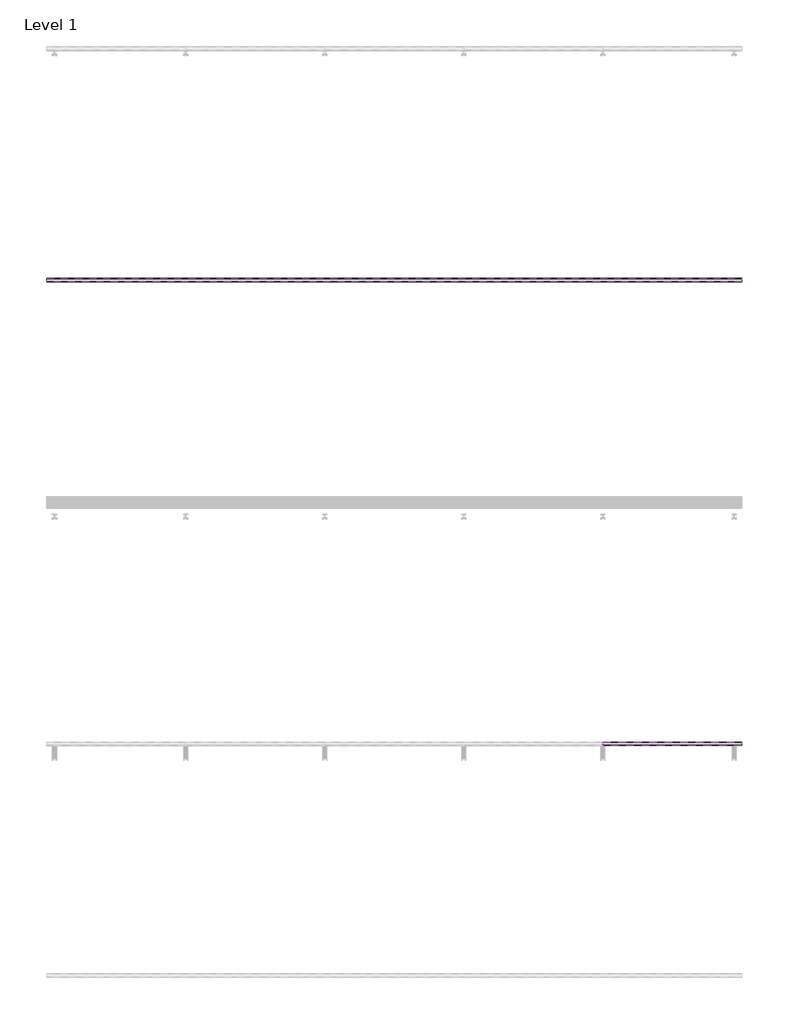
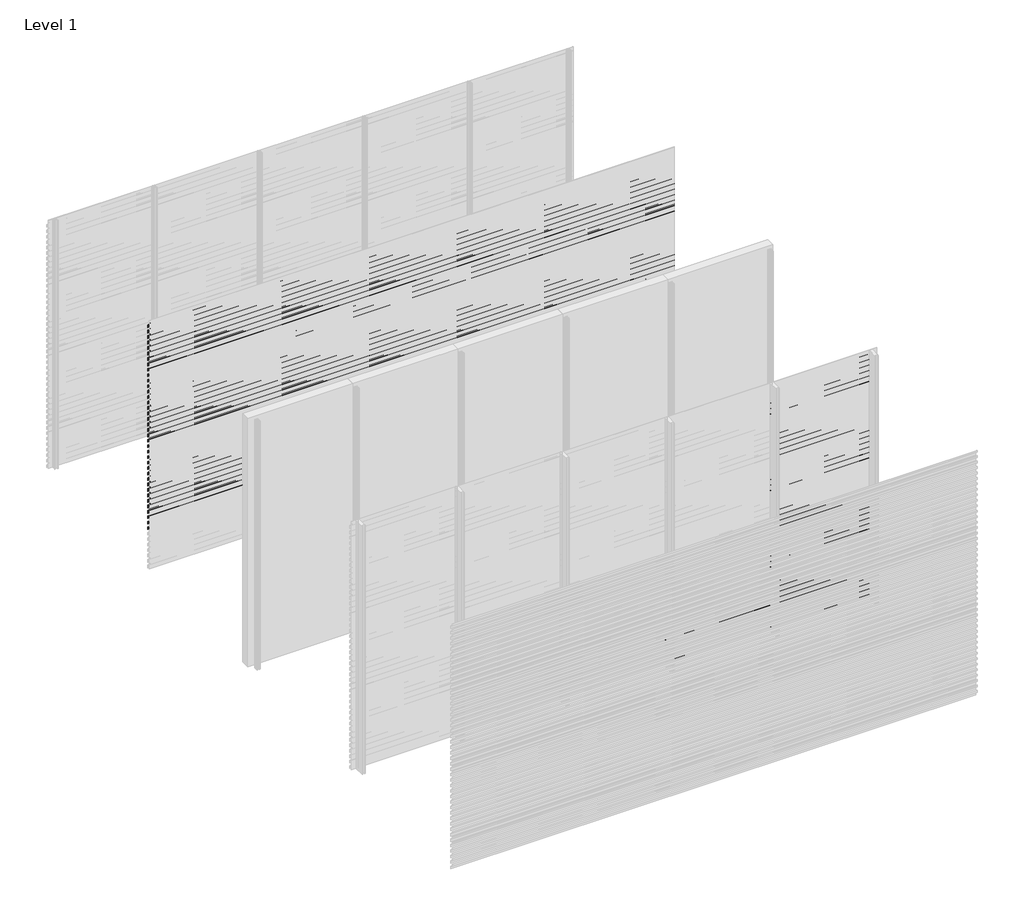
# One storey, part 9 of 33: 88 proxies.
"""IFC4 building model written with IfcOpenShell, lengths in millimetres."""

from ifc_helpers import new_model, si_unit, frame, origin, place, context, project, spatial, polyline, outline, extrude, element, save

model = new_model("IFC4")

# Units and contexts
model_context = context("Model", 3, world=origin())
ifc_project = project(units=[si_unit("LENGTHUNIT", "METRE", prefix="MILLI")], contexts=[model_context])

# Site, building, storey
site = spatial("IfcSite", under=ifc_project)
building = spatial("IfcBuilding", under=site)
storey = spatial("IfcBuildingStorey", under=building, Name="Level 1", Elevation=0.0)

# Proxies
placement = place(None, origin())
element("IfcBuildingElementProxy", 1, Name="Wall Sweeps", at=placement, inside=storey, context=model_context, shape_type="SweptSolid", body=[
    extrude(outline(polyline([(-43967.0, 2930.0), (-43967.0, 2897.0), (-43968.25, 2897.7216933), (-43968.25, 2929.2872415), (-43998.0, 2950.0588647), (-43998.0, 2970.0), (-43996.75, 2970.0), (-43996.75, 2950.7716232), (-43967.0, 2930.0)])), frame((0.0, 0.0, 0.0), z_axis=(1.0, 0.0, 0.0), x_axis=(0.0, 1.0, 0.0)), (0.0, 0.0, 1.0), 6000.0),
])
element("IfcBuildingElementProxy", 2, Name="Wall Sweeps", at=placement, inside=storey, context=model_context, shape_type="SweptSolid", body=[
    extrude(outline(polyline([(-43967.0, 2864.0), (-43967.0, 2831.0), (-43968.25, 2831.7216933), (-43968.25, 2863.2872415), (-43998.0, 2884.0588647), (-43998.0, 2904.0), (-43996.75, 2904.0), (-43996.75, 2884.7716232), (-43967.0, 2864.0)])), frame((0.0, 0.0, 0.0), z_axis=(1.0, 0.0, 0.0), x_axis=(0.0, 1.0, 0.0)), (0.0, 0.0, 1.0), 6000.0),
])
element("IfcBuildingElementProxy", 3, Name="Wall Sweeps", at=placement, inside=storey, context=model_context, shape_type="SweptSolid", body=[
    extrude(outline(polyline([(-43967.0, 2798.0), (-43967.0, 2765.0), (-43968.25, 2765.7216933), (-43968.25, 2797.2872415), (-43998.0, 2818.0588647), (-43998.0, 2838.0), (-43996.75, 2838.0), (-43996.75, 2818.7716232), (-43967.0, 2798.0)])), frame((0.0, 0.0, 0.0), z_axis=(1.0, 0.0, 0.0), x_axis=(0.0, 1.0, 0.0)), (0.0, 0.0, 1.0), 6000.0),
])
element("IfcBuildingElementProxy", 4, Name="Wall Sweeps", at=placement, inside=storey, context=model_context, shape_type="SweptSolid", body=[
    extrude(outline(polyline([(-43967.0, 2732.0), (-43967.0, 2699.0), (-43968.25, 2699.7216933), (-43968.25, 2731.2872415), (-43998.0, 2752.0588647), (-43998.0, 2772.0), (-43996.75, 2772.0), (-43996.75, 2752.7716232), (-43967.0, 2732.0)])), frame((0.0, 0.0, 0.0), z_axis=(1.0, 0.0, 0.0), x_axis=(0.0, 1.0, 0.0)), (0.0, 0.0, 1.0), 6000.0),
])
element("IfcBuildingElementProxy", 5, Name="Wall Sweeps", at=placement, inside=storey, context=model_context, shape_type="SweptSolid", body=[
    extrude(outline(polyline([(-43967.0, 2666.0), (-43967.0, 2633.0), (-43968.25, 2633.7216933), (-43968.25, 2665.2872415), (-43998.0, 2686.0588647), (-43998.0, 2706.0), (-43996.75, 2706.0), (-43996.75, 2686.7716232), (-43967.0, 2666.0)])), frame((0.0, 0.0, 0.0), z_axis=(1.0, 0.0, 0.0), x_axis=(0.0, 1.0, 0.0)), (0.0, 0.0, 1.0), 6000.0),
])
element("IfcBuildingElementProxy", 6, Name="Wall Sweeps", at=placement, inside=storey, context=model_context, shape_type="SweptSolid", body=[
    extrude(outline(polyline([(-43967.0, 2600.0), (-43967.0, 2567.0), (-43968.25, 2567.7216933), (-43968.25, 2599.2872415), (-43998.0, 2620.0588647), (-43998.0, 2640.0), (-43996.75, 2640.0), (-43996.75, 2620.7716232), (-43967.0, 2600.0)])), frame((0.0, 0.0, 0.0), z_axis=(1.0, 0.0, 0.0), x_axis=(0.0, 1.0, 0.0)), (0.0, 0.0, 1.0), 6000.0),
])
element("IfcBuildingElementProxy", 7, Name="Wall Sweeps", at=placement, inside=storey, context=model_context, shape_type="SweptSolid", body=[
    extrude(outline(polyline([(-43967.0, 2534.0), (-43967.0, 2501.0), (-43968.25, 2501.7216933), (-43968.25, 2533.2872415), (-43998.0, 2554.0588647), (-43998.0, 2574.0), (-43996.75, 2574.0), (-43996.75, 2554.7716232), (-43967.0, 2534.0)])), frame((0.0, 0.0, 0.0), z_axis=(1.0, 0.0, 0.0), x_axis=(0.0, 1.0, 0.0)), (0.0, 0.0, 1.0), 6000.0),
])
element("IfcBuildingElementProxy", 8, Name="Wall Sweeps", at=placement, inside=storey, context=model_context, shape_type="SweptSolid", body=[
    extrude(outline(polyline([(-43967.0, 2468.0), (-43967.0, 2435.0), (-43968.25, 2435.7216933), (-43968.25, 2467.2872415), (-43998.0, 2488.0588647), (-43998.0, 2508.0), (-43996.75, 2508.0), (-43996.75, 2488.7716232), (-43967.0, 2468.0)])), frame((0.0, 0.0, 0.0), z_axis=(1.0, 0.0, 0.0), x_axis=(0.0, 1.0, 0.0)), (0.0, 0.0, 1.0), 6000.0),
])
element("IfcBuildingElementProxy", 9, Name="Wall Sweeps", at=placement, inside=storey, context=model_context, shape_type="SweptSolid", body=[
    extrude(outline(polyline([(-43967.0, 2402.0), (-43967.0, 2369.0), (-43968.25, 2369.7216933), (-43968.25, 2401.2872415), (-43998.0, 2422.0588647), (-43998.0, 2442.0), (-43996.75, 2442.0), (-43996.75, 2422.7716232), (-43967.0, 2402.0)])), frame((0.0, 0.0, 0.0), z_axis=(1.0, 0.0, 0.0), x_axis=(0.0, 1.0, 0.0)), (0.0, 0.0, 1.0), 6000.0),
])
element("IfcBuildingElementProxy", 10, Name="Wall Sweeps", at=placement, inside=storey, context=model_context, shape_type="SweptSolid", body=[
    extrude(outline(polyline([(-43967.0, 2336.0), (-43967.0, 2303.0), (-43968.25, 2303.7216933), (-43968.25, 2335.2872415), (-43998.0, 2356.0588647), (-43998.0, 2376.0), (-43996.75, 2376.0), (-43996.75, 2356.7716232), (-43967.0, 2336.0)])), frame((0.0, 0.0, 0.0), z_axis=(1.0, 0.0, 0.0), x_axis=(0.0, 1.0, 0.0)), (0.0, 0.0, 1.0), 6000.0),
])
element("IfcBuildingElementProxy", 11, Name="Wall Sweeps", at=placement, inside=storey, context=model_context, shape_type="SweptSolid", body=[
    extrude(outline(polyline([(-43967.0, 2270.0), (-43967.0, 2237.0), (-43968.25, 2237.7216933), (-43968.25, 2269.2872415), (-43998.0, 2290.0588647), (-43998.0, 2310.0), (-43996.75, 2310.0), (-43996.75, 2290.7716232), (-43967.0, 2270.0)])), frame((0.0, 0.0, 0.0), z_axis=(1.0, 0.0, 0.0), x_axis=(0.0, 1.0, 0.0)), (0.0, 0.0, 1.0), 6000.0),
])
element("IfcBuildingElementProxy", 12, Name="Wall Sweeps", at=placement, inside=storey, context=model_context, shape_type="SweptSolid", body=[
    extrude(outline(polyline([(-43967.0, 2204.0), (-43967.0, 2171.0), (-43968.25, 2171.7216933), (-43968.25, 2203.2872415), (-43998.0, 2224.0588647), (-43998.0, 2244.0), (-43996.75, 2244.0), (-43996.75, 2224.7716232), (-43967.0, 2204.0)])), frame((0.0, 0.0, 0.0), z_axis=(1.0, 0.0, 0.0), x_axis=(0.0, 1.0, 0.0)), (0.0, 0.0, 1.0), 6000.0),
])
element("IfcBuildingElementProxy", 13, Name="Wall Sweeps", at=placement, inside=storey, context=model_context, shape_type="SweptSolid", body=[
    extrude(outline(polyline([(-43967.0, 2138.0), (-43967.0, 2105.0), (-43968.25, 2105.7216933), (-43968.25, 2137.2872415), (-43998.0, 2158.0588647), (-43998.0, 2178.0), (-43996.75, 2178.0), (-43996.75, 2158.7716232), (-43967.0, 2138.0)])), frame((0.0, 0.0, 0.0), z_axis=(1.0, 0.0, 0.0), x_axis=(0.0, 1.0, 0.0)), (0.0, 0.0, 1.0), 6000.0),
])
element("IfcBuildingElementProxy", 14, Name="Wall Sweeps", at=placement, inside=storey, context=model_context, shape_type="SweptSolid", body=[
    extrude(outline(polyline([(-43967.0, 2072.0), (-43967.0, 2039.0), (-43968.25, 2039.7216933), (-43968.25, 2071.2872415), (-43998.0, 2092.0588647), (-43998.0, 2112.0), (-43996.75, 2112.0), (-43996.75, 2092.7716232), (-43967.0, 2072.0)])), frame((0.0, 0.0, 0.0), z_axis=(1.0, 0.0, 0.0), x_axis=(0.0, 1.0, 0.0)), (0.0, 0.0, 1.0), 6000.0),
])
element("IfcBuildingElementProxy", 15, Name="Wall Sweeps", at=placement, inside=storey, context=model_context, shape_type="SweptSolid", body=[
    extrude(outline(polyline([(-43967.0, 2006.0), (-43967.0, 1973.0), (-43968.25, 1973.7216933), (-43968.25, 2005.2872415), (-43998.0, 2026.0588647), (-43998.0, 2046.0), (-43996.75, 2046.0), (-43996.75, 2026.7716232), (-43967.0, 2006.0)])), frame((0.0, 0.0, 0.0), z_axis=(1.0, 0.0, 0.0), x_axis=(0.0, 1.0, 0.0)), (0.0, 0.0, 1.0), 6000.0),
])
element("IfcBuildingElementProxy", 16, Name="Wall Sweeps", at=placement, inside=storey, context=model_context, shape_type="SweptSolid", body=[
    extrude(outline(polyline([(-43967.0, 1940.0), (-43967.0, 1907.0), (-43968.25, 1907.7216933), (-43968.25, 1939.2872415), (-43998.0, 1960.0588647), (-43998.0, 1980.0), (-43996.75, 1980.0), (-43996.75, 1960.7716232), (-43967.0, 1940.0)])), frame((0.0, 0.0, 0.0), z_axis=(1.0, 0.0, 0.0), x_axis=(0.0, 1.0, 0.0)), (0.0, 0.0, 1.0), 6000.0),
])
element("IfcBuildingElementProxy", 17, Name="Wall Sweeps", at=placement, inside=storey, context=model_context, shape_type="SweptSolid", body=[
    extrude(outline(polyline([(-43967.0, 1874.0), (-43967.0, 1841.0), (-43968.25, 1841.7216933), (-43968.25, 1873.2872415), (-43998.0, 1894.0588647), (-43998.0, 1914.0), (-43996.75, 1914.0), (-43996.75, 1894.7716232), (-43967.0, 1874.0)])), frame((0.0, 0.0, 0.0), z_axis=(1.0, 0.0, 0.0), x_axis=(0.0, 1.0, 0.0)), (0.0, 0.0, 1.0), 6000.0),
])
element("IfcBuildingElementProxy", 18, Name="Wall Sweeps", at=placement, inside=storey, context=model_context, shape_type="SweptSolid", body=[
    extrude(outline(polyline([(-43967.0, 1808.0), (-43967.0, 1775.0), (-43968.25, 1775.7216933), (-43968.25, 1807.2872415), (-43998.0, 1828.0588647), (-43998.0, 1848.0), (-43996.75, 1848.0), (-43996.75, 1828.7716232), (-43967.0, 1808.0)])), frame((0.0, 0.0, 0.0), z_axis=(1.0, 0.0, 0.0), x_axis=(0.0, 1.0, 0.0)), (0.0, 0.0, 1.0), 6000.0),
])
element("IfcBuildingElementProxy", 19, Name="Wall Sweeps", at=placement, inside=storey, context=model_context, shape_type="SweptSolid", body=[
    extrude(outline(polyline([(-43967.0, 1742.0), (-43967.0, 1709.0), (-43968.25, 1709.7216933), (-43968.25, 1741.2872415), (-43998.0, 1762.0588647), (-43998.0, 1782.0), (-43996.75, 1782.0), (-43996.75, 1762.7716232), (-43967.0, 1742.0)])), frame((0.0, 0.0, 0.0), z_axis=(1.0, 0.0, 0.0), x_axis=(0.0, 1.0, 0.0)), (0.0, 0.0, 1.0), 6000.0),
])
element("IfcBuildingElementProxy", 20, Name="Wall Sweeps", at=placement, inside=storey, context=model_context, shape_type="SweptSolid", body=[
    extrude(outline(polyline([(-43967.0, 1676.0), (-43967.0, 1643.0), (-43968.25, 1643.7216933), (-43968.25, 1675.2872415), (-43998.0, 1696.0588647), (-43998.0, 1716.0), (-43996.75, 1716.0), (-43996.75, 1696.7716232), (-43967.0, 1676.0)])), frame((0.0, 0.0, 0.0), z_axis=(1.0, 0.0, 0.0), x_axis=(0.0, 1.0, 0.0)), (0.0, 0.0, 1.0), 6000.0),
])
element("IfcBuildingElementProxy", 21, Name="Wall Sweeps", at=placement, inside=storey, context=model_context, shape_type="SweptSolid", body=[
    extrude(outline(polyline([(-43967.0, 1610.0), (-43967.0, 1577.0), (-43968.25, 1577.7216933), (-43968.25, 1609.2872415), (-43998.0, 1630.0588647), (-43998.0, 1650.0), (-43996.75, 1650.0), (-43996.75, 1630.7716232), (-43967.0, 1610.0)])), frame((0.0, 0.0, 0.0), z_axis=(1.0, 0.0, 0.0), x_axis=(0.0, 1.0, 0.0)), (0.0, 0.0, 1.0), 6000.0),
])
element("IfcBuildingElementProxy", 22, Name="Wall Sweeps", at=placement, inside=storey, context=model_context, shape_type="SweptSolid", body=[
    extrude(outline(polyline([(-43967.0, 1544.0), (-43967.0, 1511.0), (-43968.25, 1511.7216933), (-43968.25, 1543.2872415), (-43998.0, 1564.0588647), (-43998.0, 1584.0), (-43996.75, 1584.0), (-43996.75, 1564.7716232), (-43967.0, 1544.0)])), frame((0.0, 0.0, 0.0), z_axis=(1.0, 0.0, 0.0), x_axis=(0.0, 1.0, 0.0)), (0.0, 0.0, 1.0), 6000.0),
])
element("IfcBuildingElementProxy", 23, Name="Wall Sweeps", at=placement, inside=storey, context=model_context, shape_type="SweptSolid", body=[
    extrude(outline(polyline([(-43967.0, 1478.0), (-43967.0, 1445.0), (-43968.25, 1445.7216933), (-43968.25, 1477.2872415), (-43998.0, 1498.0588647), (-43998.0, 1518.0), (-43996.75, 1518.0), (-43996.75, 1498.7716232), (-43967.0, 1478.0)])), frame((0.0, 0.0, 0.0), z_axis=(1.0, 0.0, 0.0), x_axis=(0.0, 1.0, 0.0)), (0.0, 0.0, 1.0), 6000.0),
])
element("IfcBuildingElementProxy", 24, Name="Wall Sweeps", at=placement, inside=storey, context=model_context, shape_type="SweptSolid", body=[
    extrude(outline(polyline([(-43967.0, 1412.0), (-43967.0, 1379.0), (-43968.25, 1379.7216933), (-43968.25, 1411.2872415), (-43998.0, 1432.0588647), (-43998.0, 1452.0), (-43996.75, 1452.0), (-43996.75, 1432.7716232), (-43967.0, 1412.0)])), frame((0.0, 0.0, 0.0), z_axis=(1.0, 0.0, 0.0), x_axis=(0.0, 1.0, 0.0)), (0.0, 0.0, 1.0), 6000.0),
])
element("IfcBuildingElementProxy", 25, Name="Wall Sweeps", at=placement, inside=storey, context=model_context, shape_type="SweptSolid", body=[
    extrude(outline(polyline([(-43967.0, 1346.0), (-43967.0, 1313.0), (-43968.25, 1313.7216933), (-43968.25, 1345.2872415), (-43998.0, 1366.0588647), (-43998.0, 1386.0), (-43996.75, 1386.0), (-43996.75, 1366.7716232), (-43967.0, 1346.0)])), frame((0.0, 0.0, 0.0), z_axis=(1.0, 0.0, 0.0), x_axis=(0.0, 1.0, 0.0)), (0.0, 0.0, 1.0), 6000.0),
])
element("IfcBuildingElementProxy", 26, Name="Wall Sweeps", at=placement, inside=storey, context=model_context, shape_type="SweptSolid", body=[
    extrude(outline(polyline([(-43967.0, 1280.0), (-43967.0, 1247.0), (-43968.25, 1247.7216933), (-43968.25, 1279.2872415), (-43998.0, 1300.0588647), (-43998.0, 1320.0), (-43996.75, 1320.0), (-43996.75, 1300.7716232), (-43967.0, 1280.0)])), frame((0.0, 0.0, 0.0), z_axis=(1.0, 0.0, 0.0), x_axis=(0.0, 1.0, 0.0)), (0.0, 0.0, 1.0), 6000.0),
])
element("IfcBuildingElementProxy", 27, Name="Wall Sweeps", at=placement, inside=storey, context=model_context, shape_type="SweptSolid", body=[
    extrude(outline(polyline([(-43967.0, 1214.0), (-43967.0, 1181.0), (-43968.25, 1181.7216933), (-43968.25, 1213.2872415), (-43998.0, 1234.0588647), (-43998.0, 1254.0), (-43996.75, 1254.0), (-43996.75, 1234.7716232), (-43967.0, 1214.0)])), frame((0.0, 0.0, 0.0), z_axis=(1.0, 0.0, 0.0), x_axis=(0.0, 1.0, 0.0)), (0.0, 0.0, 1.0), 6000.0),
])
element("IfcBuildingElementProxy", 28, Name="Wall Sweeps", at=placement, inside=storey, context=model_context, shape_type="SweptSolid", body=[
    extrude(outline(polyline([(-43967.0, 1148.0), (-43967.0, 1115.0), (-43968.25, 1115.7216933), (-43968.25, 1147.2872415), (-43998.0, 1168.0588647), (-43998.0, 1188.0), (-43996.75, 1188.0), (-43996.75, 1168.7716232), (-43967.0, 1148.0)])), frame((0.0, 0.0, 0.0), z_axis=(1.0, 0.0, 0.0), x_axis=(0.0, 1.0, 0.0)), (0.0, 0.0, 1.0), 6000.0),
])
element("IfcBuildingElementProxy", 29, Name="Wall Sweeps", at=placement, inside=storey, context=model_context, shape_type="SweptSolid", body=[
    extrude(outline(polyline([(-43967.0, 1082.0), (-43967.0, 1049.0), (-43968.25, 1049.7216933), (-43968.25, 1081.2872415), (-43998.0, 1102.0588647), (-43998.0, 1122.0), (-43996.75, 1122.0), (-43996.75, 1102.7716232), (-43967.0, 1082.0)])), frame((0.0, 0.0, 0.0), z_axis=(1.0, 0.0, 0.0), x_axis=(0.0, 1.0, 0.0)), (0.0, 0.0, 1.0), 6000.0),
])
element("IfcBuildingElementProxy", 30, Name="Wall Sweeps", at=placement, inside=storey, context=model_context, shape_type="SweptSolid", body=[
    extrude(outline(polyline([(-43967.0, 1016.0), (-43967.0, 983.0), (-43968.25, 983.7216933), (-43968.25, 1015.2872415), (-43998.0, 1036.0588647), (-43998.0, 1056.0), (-43996.75, 1056.0), (-43996.75, 1036.7716232), (-43967.0, 1016.0)])), frame((0.0, 0.0, 0.0), z_axis=(1.0, 0.0, 0.0), x_axis=(0.0, 1.0, 0.0)), (0.0, 0.0, 1.0), 6000.0),
])
element("IfcBuildingElementProxy", 31, Name="Wall Sweeps", at=placement, inside=storey, context=model_context, shape_type="SweptSolid", body=[
    extrude(outline(polyline([(-43967.0, 950.0), (-43967.0, 917.0), (-43968.25, 917.7216933), (-43968.25, 949.2872415), (-43998.0, 970.0588647), (-43998.0, 990.0), (-43996.75, 990.0), (-43996.75, 970.7716232), (-43967.0, 950.0)])), frame((0.0, 0.0, 0.0), z_axis=(1.0, 0.0, 0.0), x_axis=(0.0, 1.0, 0.0)), (0.0, 0.0, 1.0), 6000.0),
])
element("IfcBuildingElementProxy", 32, Name="Wall Sweeps", at=placement, inside=storey, context=model_context, shape_type="SweptSolid", body=[
    extrude(outline(polyline([(-43967.0, 884.0), (-43967.0, 851.0), (-43968.25, 851.7216933), (-43968.25, 883.2872415), (-43998.0, 904.0588647), (-43998.0, 924.0), (-43996.75, 924.0), (-43996.75, 904.7716232), (-43967.0, 884.0)])), frame((0.0, 0.0, 0.0), z_axis=(1.0, 0.0, 0.0), x_axis=(0.0, 1.0, 0.0)), (0.0, 0.0, 1.0), 6000.0),
])
element("IfcBuildingElementProxy", 33, Name="Wall Sweeps", at=placement, inside=storey, context=model_context, shape_type="SweptSolid", body=[
    extrude(outline(polyline([(-43967.0, 818.0), (-43967.0, 785.0), (-43968.25, 785.7216933), (-43968.25, 817.2872415), (-43998.0, 838.0588647), (-43998.0, 858.0), (-43996.75, 858.0), (-43996.75, 838.7716232), (-43967.0, 818.0)])), frame((0.0, 0.0, 0.0), z_axis=(1.0, 0.0, 0.0), x_axis=(0.0, 1.0, 0.0)), (0.0, 0.0, 1.0), 6000.0),
])
element("IfcBuildingElementProxy", 34, Name="Wall Sweeps", at=placement, inside=storey, context=model_context, shape_type="SweptSolid", body=[
    extrude(outline(polyline([(-43967.0, 752.0), (-43967.0, 719.0), (-43968.25, 719.7216933), (-43968.25, 751.2872415), (-43998.0, 772.0588647), (-43998.0, 792.0), (-43996.75, 792.0), (-43996.75, 772.7716232), (-43967.0, 752.0)])), frame((0.0, 0.0, 0.0), z_axis=(1.0, 0.0, 0.0), x_axis=(0.0, 1.0, 0.0)), (0.0, 0.0, 1.0), 6000.0),
])
element("IfcBuildingElementProxy", 35, Name="Wall Sweeps", at=placement, inside=storey, context=model_context, shape_type="SweptSolid", body=[
    extrude(outline(polyline([(-43967.0, 686.0), (-43967.0, 653.0), (-43968.25, 653.7216933), (-43968.25, 685.2872415), (-43998.0, 706.0588647), (-43998.0, 726.0), (-43996.75, 726.0), (-43996.75, 706.7716232), (-43967.0, 686.0)])), frame((0.0, 0.0, 0.0), z_axis=(1.0, 0.0, 0.0), x_axis=(0.0, 1.0, 0.0)), (0.0, 0.0, 1.0), 6000.0),
])
element("IfcBuildingElementProxy", 36, Name="Wall Sweeps", at=placement, inside=storey, context=model_context, shape_type="SweptSolid", body=[
    extrude(outline(polyline([(-43967.0, 620.0), (-43967.0, 587.0), (-43968.25, 587.7216933), (-43968.25, 619.2872415), (-43998.0, 640.0588647), (-43998.0, 660.0), (-43996.75, 660.0), (-43996.75, 640.7716232), (-43967.0, 620.0)])), frame((0.0, 0.0, 0.0), z_axis=(1.0, 0.0, 0.0), x_axis=(0.0, 1.0, 0.0)), (0.0, 0.0, 1.0), 6000.0),
])
element("IfcBuildingElementProxy", 37, Name="Wall Sweeps", at=placement, inside=storey, context=model_context, shape_type="SweptSolid", body=[
    extrude(outline(polyline([(-43967.0, 554.0), (-43967.0, 521.0), (-43968.25, 521.7216933), (-43968.25, 553.2872415), (-43998.0, 574.0588647), (-43998.0, 594.0), (-43996.75, 594.0), (-43996.75, 574.7716232), (-43967.0, 554.0)])), frame((0.0, 0.0, 0.0), z_axis=(1.0, 0.0, 0.0), x_axis=(0.0, 1.0, 0.0)), (0.0, 0.0, 1.0), 6000.0),
])
element("IfcBuildingElementProxy", 38, Name="Wall Sweeps", at=placement, inside=storey, context=model_context, shape_type="SweptSolid", body=[
    extrude(outline(polyline([(-43967.0, 488.0), (-43967.0, 455.0), (-43968.25, 455.7216933), (-43968.25, 487.2872415), (-43998.0, 508.0588647), (-43998.0, 528.0), (-43996.75, 528.0), (-43996.75, 508.7716232), (-43967.0, 488.0)])), frame((0.0, 0.0, 0.0), z_axis=(1.0, 0.0, 0.0), x_axis=(0.0, 1.0, 0.0)), (0.0, 0.0, 1.0), 6000.0),
])
element("IfcBuildingElementProxy", 39, Name="Wall Sweeps", at=placement, inside=storey, context=model_context, shape_type="SweptSolid", body=[
    extrude(outline(polyline([(-47967.0, 290.0), (-47967.0, 257.0), (-47968.25, 257.7216933), (-47968.25, 289.2872415), (-47998.0, 310.0588647), (-47998.0, 330.0), (-47996.75, 330.0), (-47996.75, 310.7716232), (-47967.0, 290.0)])), frame((3600.0, 0.0, 0.0), z_axis=(1.0, 0.0, 0.0), x_axis=(0.0, 1.0, 0.0)), (0.0, 0.0, 1.0), 1200.0),
])
element("IfcBuildingElementProxy", 40, Name="Wall Sweeps", at=placement, inside=storey, context=model_context, shape_type="SweptSolid", body=[
    extrude(outline(polyline([(-47967.0, 224.0), (-47967.0, 191.0), (-47968.25, 191.7216933), (-47968.25, 223.2872415), (-47998.0, 244.0588647), (-47998.0, 264.0), (-47996.75, 264.0), (-47996.75, 244.7716232), (-47967.0, 224.0)])), frame((3600.0, 0.0, 0.0), z_axis=(1.0, 0.0, 0.0), x_axis=(0.0, 1.0, 0.0)), (0.0, 0.0, 1.0), 1200.0),
])
element("IfcBuildingElementProxy", 41, Name="Wall Sweeps", at=placement, inside=storey, context=model_context, shape_type="SweptSolid", body=[
    extrude(outline(polyline([(-47967.0, 158.0), (-47967.0, 125.0), (-47968.25, 125.7216933), (-47968.25, 157.2872415), (-47998.0, 178.0588647), (-47998.0, 198.0), (-47996.75, 198.0), (-47996.75, 178.7716232), (-47967.0, 158.0)])), frame((3600.0, 0.0, 0.0), z_axis=(1.0, 0.0, 0.0), x_axis=(0.0, 1.0, 0.0)), (0.0, 0.0, 1.0), 1200.0),
])
element("IfcBuildingElementProxy", 42, Name="Wall Sweeps", at=placement, inside=storey, context=model_context, shape_type="SweptSolid", body=[
    extrude(outline(polyline([(-47967.0, 92.0), (-47967.0, 59.0), (-47968.25, 59.7216933), (-47968.25, 91.2872415), (-47998.0, 112.0588647), (-47998.0, 132.0), (-47996.75, 132.0), (-47996.75, 112.7716232), (-47967.0, 92.0)])), frame((3600.0, 0.0, 0.0), z_axis=(1.0, 0.0, 0.0), x_axis=(0.0, 1.0, 0.0)), (0.0, 0.0, 1.0), 1200.0),
])
element("IfcBuildingElementProxy", 43, Name="Wall Sweeps", at=placement, inside=storey, context=model_context, shape_type="SweptSolid", body=[
    extrude(outline(polyline([(-47967.0, 26.0), (-47967.0, -7.0), (-47968.25, -6.2783067), (-47968.25, 25.2872415), (-47998.0, 46.0588647), (-47998.0, 66.0), (-47996.75, 66.0), (-47996.75, 46.7716232), (-47967.0, 26.0)])), frame((3600.0, 0.0, 0.0), z_axis=(1.0, 0.0, 0.0), x_axis=(0.0, 1.0, 0.0)), (0.0, 0.0, 1.0), 1200.0),
])
element("IfcBuildingElementProxy", 44, Name="Wall Sweeps", at=placement, inside=storey, context=model_context, shape_type="SweptSolid", body=[
    extrude(outline(polyline([(-47967.0, 2930.0), (-47967.0, 2897.0), (-47968.25, 2897.7216933), (-47968.25, 2929.2872415), (-47998.0, 2950.0588647), (-47998.0, 2970.0), (-47996.75, 2970.0), (-47996.75, 2950.7716232), (-47967.0, 2930.0)])), frame((4800.0, 0.0, 0.0), z_axis=(1.0, 0.0, 0.0), x_axis=(0.0, 1.0, 0.0)), (0.0, 0.0, 1.0), 1200.0),
])
element("IfcBuildingElementProxy", 45, Name="Wall Sweeps", at=placement, inside=storey, context=model_context, shape_type="SweptSolid", body=[
    extrude(outline(polyline([(-47967.0, 2864.0), (-47967.0, 2831.0), (-47968.25, 2831.7216933), (-47968.25, 2863.2872415), (-47998.0, 2884.0588647), (-47998.0, 2904.0), (-47996.75, 2904.0), (-47996.75, 2884.7716232), (-47967.0, 2864.0)])), frame((4800.0, 0.0, 0.0), z_axis=(1.0, 0.0, 0.0), x_axis=(0.0, 1.0, 0.0)), (0.0, 0.0, 1.0), 1200.0),
])
element("IfcBuildingElementProxy", 46, Name="Wall Sweeps", at=placement, inside=storey, context=model_context, shape_type="SweptSolid", body=[
    extrude(outline(polyline([(-47967.0, 2798.0), (-47967.0, 2765.0), (-47968.25, 2765.7216933), (-47968.25, 2797.2872415), (-47998.0, 2818.0588647), (-47998.0, 2838.0), (-47996.75, 2838.0), (-47996.75, 2818.7716232), (-47967.0, 2798.0)])), frame((4800.0, 0.0, 0.0), z_axis=(1.0, 0.0, 0.0), x_axis=(0.0, 1.0, 0.0)), (0.0, 0.0, 1.0), 1200.0),
])
element("IfcBuildingElementProxy", 47, Name="Wall Sweeps", at=placement, inside=storey, context=model_context, shape_type="SweptSolid", body=[
    extrude(outline(polyline([(-47967.0, 2732.0), (-47967.0, 2699.0), (-47968.25, 2699.7216933), (-47968.25, 2731.2872415), (-47998.0, 2752.0588647), (-47998.0, 2772.0), (-47996.75, 2772.0), (-47996.75, 2752.7716232), (-47967.0, 2732.0)])), frame((4800.0, 0.0, 0.0), z_axis=(1.0, 0.0, 0.0), x_axis=(0.0, 1.0, 0.0)), (0.0, 0.0, 1.0), 1200.0),
])
element("IfcBuildingElementProxy", 48, Name="Wall Sweeps", at=placement, inside=storey, context=model_context, shape_type="SweptSolid", body=[
    extrude(outline(polyline([(-47967.0, 2666.0), (-47967.0, 2633.0), (-47968.25, 2633.7216933), (-47968.25, 2665.2872415), (-47998.0, 2686.0588647), (-47998.0, 2706.0), (-47996.75, 2706.0), (-47996.75, 2686.7716232), (-47967.0, 2666.0)])), frame((4800.0, 0.0, 0.0), z_axis=(1.0, 0.0, 0.0), x_axis=(0.0, 1.0, 0.0)), (0.0, 0.0, 1.0), 1200.0),
])
element("IfcBuildingElementProxy", 49, Name="Wall Sweeps", at=placement, inside=storey, context=model_context, shape_type="SweptSolid", body=[
    extrude(outline(polyline([(-47967.0, 2600.0), (-47967.0, 2567.0), (-47968.25, 2567.7216933), (-47968.25, 2599.2872415), (-47998.0, 2620.0588647), (-47998.0, 2640.0), (-47996.75, 2640.0), (-47996.75, 2620.7716232), (-47967.0, 2600.0)])), frame((4800.0, 0.0, 0.0), z_axis=(1.0, 0.0, 0.0), x_axis=(0.0, 1.0, 0.0)), (0.0, 0.0, 1.0), 1200.0),
])
element("IfcBuildingElementProxy", 50, Name="Wall Sweeps", at=placement, inside=storey, context=model_context, shape_type="SweptSolid", body=[
    extrude(outline(polyline([(-47967.0, 2534.0), (-47967.0, 2501.0), (-47968.25, 2501.7216933), (-47968.25, 2533.2872415), (-47998.0, 2554.0588647), (-47998.0, 2574.0), (-47996.75, 2574.0), (-47996.75, 2554.7716232), (-47967.0, 2534.0)])), frame((4800.0, 0.0, 0.0), z_axis=(1.0, 0.0, 0.0), x_axis=(0.0, 1.0, 0.0)), (0.0, 0.0, 1.0), 1200.0),
])
element("IfcBuildingElementProxy", 51, Name="Wall Sweeps", at=placement, inside=storey, context=model_context, shape_type="SweptSolid", body=[
    extrude(outline(polyline([(-47967.0, 2468.0), (-47967.0, 2435.0), (-47968.25, 2435.7216933), (-47968.25, 2467.2872415), (-47998.0, 2488.0588647), (-47998.0, 2508.0), (-47996.75, 2508.0), (-47996.75, 2488.7716232), (-47967.0, 2468.0)])), frame((4800.0, 0.0, 0.0), z_axis=(1.0, 0.0, 0.0), x_axis=(0.0, 1.0, 0.0)), (0.0, 0.0, 1.0), 1200.0),
])
element("IfcBuildingElementProxy", 52, Name="Wall Sweeps", at=placement, inside=storey, context=model_context, shape_type="SweptSolid", body=[
    extrude(outline(polyline([(-47967.0, 2402.0), (-47967.0, 2369.0), (-47968.25, 2369.7216933), (-47968.25, 2401.2872415), (-47998.0, 2422.0588647), (-47998.0, 2442.0), (-47996.75, 2442.0), (-47996.75, 2422.7716232), (-47967.0, 2402.0)])), frame((4800.0, 0.0, 0.0), z_axis=(1.0, 0.0, 0.0), x_axis=(0.0, 1.0, 0.0)), (0.0, 0.0, 1.0), 1200.0),
])
element("IfcBuildingElementProxy", 53, Name="Wall Sweeps", at=placement, inside=storey, context=model_context, shape_type="SweptSolid", body=[
    extrude(outline(polyline([(-47967.0, 2336.0), (-47967.0, 2303.0), (-47968.25, 2303.7216933), (-47968.25, 2335.2872415), (-47998.0, 2356.0588647), (-47998.0, 2376.0), (-47996.75, 2376.0), (-47996.75, 2356.7716232), (-47967.0, 2336.0)])), frame((4800.0, 0.0, 0.0), z_axis=(1.0, 0.0, 0.0), x_axis=(0.0, 1.0, 0.0)), (0.0, 0.0, 1.0), 1200.0),
])
element("IfcBuildingElementProxy", 54, Name="Wall Sweeps", at=placement, inside=storey, context=model_context, shape_type="SweptSolid", body=[
    extrude(outline(polyline([(-47967.0, 2270.0), (-47967.0, 2237.0), (-47968.25, 2237.7216933), (-47968.25, 2269.2872415), (-47998.0, 2290.0588647), (-47998.0, 2310.0), (-47996.75, 2310.0), (-47996.75, 2290.7716232), (-47967.0, 2270.0)])), frame((4800.0, 0.0, 0.0), z_axis=(1.0, 0.0, 0.0), x_axis=(0.0, 1.0, 0.0)), (0.0, 0.0, 1.0), 1200.0),
])
element("IfcBuildingElementProxy", 55, Name="Wall Sweeps", at=placement, inside=storey, context=model_context, shape_type="SweptSolid", body=[
    extrude(outline(polyline([(-47967.0, 2204.0), (-47967.0, 2171.0), (-47968.25, 2171.7216933), (-47968.25, 2203.2872415), (-47998.0, 2224.0588647), (-47998.0, 2244.0), (-47996.75, 2244.0), (-47996.75, 2224.7716232), (-47967.0, 2204.0)])), frame((4800.0, 0.0, 0.0), z_axis=(1.0, 0.0, 0.0), x_axis=(0.0, 1.0, 0.0)), (0.0, 0.0, 1.0), 1200.0),
])
element("IfcBuildingElementProxy", 56, Name="Wall Sweeps", at=placement, inside=storey, context=model_context, shape_type="SweptSolid", body=[
    extrude(outline(polyline([(-47967.0, 2138.0), (-47967.0, 2105.0), (-47968.25, 2105.7216933), (-47968.25, 2137.2872415), (-47998.0, 2158.0588647), (-47998.0, 2178.0), (-47996.75, 2178.0), (-47996.75, 2158.7716232), (-47967.0, 2138.0)])), frame((4800.0, 0.0, 0.0), z_axis=(1.0, 0.0, 0.0), x_axis=(0.0, 1.0, 0.0)), (0.0, 0.0, 1.0), 1200.0),
])
element("IfcBuildingElementProxy", 57, Name="Wall Sweeps", at=placement, inside=storey, context=model_context, shape_type="SweptSolid", body=[
    extrude(outline(polyline([(-47967.0, 2072.0), (-47967.0, 2039.0), (-47968.25, 2039.7216933), (-47968.25, 2071.2872415), (-47998.0, 2092.0588647), (-47998.0, 2112.0), (-47996.75, 2112.0), (-47996.75, 2092.7716232), (-47967.0, 2072.0)])), frame((4800.0, 0.0, 0.0), z_axis=(1.0, 0.0, 0.0), x_axis=(0.0, 1.0, 0.0)), (0.0, 0.0, 1.0), 1200.0),
])
element("IfcBuildingElementProxy", 58, Name="Wall Sweeps", at=placement, inside=storey, context=model_context, shape_type="SweptSolid", body=[
    extrude(outline(polyline([(-47967.0, 2006.0), (-47967.0, 1973.0), (-47968.25, 1973.7216933), (-47968.25, 2005.2872415), (-47998.0, 2026.0588647), (-47998.0, 2046.0), (-47996.75, 2046.0), (-47996.75, 2026.7716232), (-47967.0, 2006.0)])), frame((4800.0, 0.0, 0.0), z_axis=(1.0, 0.0, 0.0), x_axis=(0.0, 1.0, 0.0)), (0.0, 0.0, 1.0), 1200.0),
])
element("IfcBuildingElementProxy", 59, Name="Wall Sweeps", at=placement, inside=storey, context=model_context, shape_type="SweptSolid", body=[
    extrude(outline(polyline([(-47967.0, 1940.0), (-47967.0, 1907.0), (-47968.25, 1907.7216933), (-47968.25, 1939.2872415), (-47998.0, 1960.0588647), (-47998.0, 1980.0), (-47996.75, 1980.0), (-47996.75, 1960.7716232), (-47967.0, 1940.0)])), frame((4800.0, 0.0, 0.0), z_axis=(1.0, 0.0, 0.0), x_axis=(0.0, 1.0, 0.0)), (0.0, 0.0, 1.0), 1200.0),
])
element("IfcBuildingElementProxy", 60, Name="Wall Sweeps", at=placement, inside=storey, context=model_context, shape_type="SweptSolid", body=[
    extrude(outline(polyline([(-47967.0, 1874.0), (-47967.0, 1841.0), (-47968.25, 1841.7216933), (-47968.25, 1873.2872415), (-47998.0, 1894.0588647), (-47998.0, 1914.0), (-47996.75, 1914.0), (-47996.75, 1894.7716232), (-47967.0, 1874.0)])), frame((4800.0, 0.0, 0.0), z_axis=(1.0, 0.0, 0.0), x_axis=(0.0, 1.0, 0.0)), (0.0, 0.0, 1.0), 1200.0),
])
element("IfcBuildingElementProxy", 61, Name="Wall Sweeps", at=placement, inside=storey, context=model_context, shape_type="SweptSolid", body=[
    extrude(outline(polyline([(-47967.0, 1808.0), (-47967.0, 1775.0), (-47968.25, 1775.7216933), (-47968.25, 1807.2872415), (-47998.0, 1828.0588647), (-47998.0, 1848.0), (-47996.75, 1848.0), (-47996.75, 1828.7716232), (-47967.0, 1808.0)])), frame((4800.0, 0.0, 0.0), z_axis=(1.0, 0.0, 0.0), x_axis=(0.0, 1.0, 0.0)), (0.0, 0.0, 1.0), 1200.0),
])
element("IfcBuildingElementProxy", 62, Name="Wall Sweeps", at=placement, inside=storey, context=model_context, shape_type="SweptSolid", body=[
    extrude(outline(polyline([(-47967.0, 1742.0), (-47967.0, 1709.0), (-47968.25, 1709.7216933), (-47968.25, 1741.2872415), (-47998.0, 1762.0588647), (-47998.0, 1782.0), (-47996.75, 1782.0), (-47996.75, 1762.7716232), (-47967.0, 1742.0)])), frame((4800.0, 0.0, 0.0), z_axis=(1.0, 0.0, 0.0), x_axis=(0.0, 1.0, 0.0)), (0.0, 0.0, 1.0), 1200.0),
])
element("IfcBuildingElementProxy", 63, Name="Wall Sweeps", at=placement, inside=storey, context=model_context, shape_type="SweptSolid", body=[
    extrude(outline(polyline([(-47967.0, 1676.0), (-47967.0, 1643.0), (-47968.25, 1643.7216933), (-47968.25, 1675.2872415), (-47998.0, 1696.0588647), (-47998.0, 1716.0), (-47996.75, 1716.0), (-47996.75, 1696.7716232), (-47967.0, 1676.0)])), frame((4800.0, 0.0, 0.0), z_axis=(1.0, 0.0, 0.0), x_axis=(0.0, 1.0, 0.0)), (0.0, 0.0, 1.0), 1200.0),
])
element("IfcBuildingElementProxy", 64, Name="Wall Sweeps", at=placement, inside=storey, context=model_context, shape_type="SweptSolid", body=[
    extrude(outline(polyline([(-47967.0, 1610.0), (-47967.0, 1577.0), (-47968.25, 1577.7216933), (-47968.25, 1609.2872415), (-47998.0, 1630.0588647), (-47998.0, 1650.0), (-47996.75, 1650.0), (-47996.75, 1630.7716232), (-47967.0, 1610.0)])), frame((4800.0, 0.0, 0.0), z_axis=(1.0, 0.0, 0.0), x_axis=(0.0, 1.0, 0.0)), (0.0, 0.0, 1.0), 1200.0),
])
element("IfcBuildingElementProxy", 65, Name="Wall Sweeps", at=placement, inside=storey, context=model_context, shape_type="SweptSolid", body=[
    extrude(outline(polyline([(-47967.0, 1544.0), (-47967.0, 1511.0), (-47968.25, 1511.7216933), (-47968.25, 1543.2872415), (-47998.0, 1564.0588647), (-47998.0, 1584.0), (-47996.75, 1584.0), (-47996.75, 1564.7716232), (-47967.0, 1544.0)])), frame((4800.0, 0.0, 0.0), z_axis=(1.0, 0.0, 0.0), x_axis=(0.0, 1.0, 0.0)), (0.0, 0.0, 1.0), 1200.0),
])
element("IfcBuildingElementProxy", 66, Name="Wall Sweeps", at=placement, inside=storey, context=model_context, shape_type="SweptSolid", body=[
    extrude(outline(polyline([(-47967.0, 1478.0), (-47967.0, 1445.0), (-47968.25, 1445.7216933), (-47968.25, 1477.2872415), (-47998.0, 1498.0588647), (-47998.0, 1518.0), (-47996.75, 1518.0), (-47996.75, 1498.7716232), (-47967.0, 1478.0)])), frame((4800.0, 0.0, 0.0), z_axis=(1.0, 0.0, 0.0), x_axis=(0.0, 1.0, 0.0)), (0.0, 0.0, 1.0), 1200.0),
])
element("IfcBuildingElementProxy", 67, Name="Wall Sweeps", at=placement, inside=storey, context=model_context, shape_type="SweptSolid", body=[
    extrude(outline(polyline([(-47967.0, 1412.0), (-47967.0, 1379.0), (-47968.25, 1379.7216933), (-47968.25, 1411.2872415), (-47998.0, 1432.0588647), (-47998.0, 1452.0), (-47996.75, 1452.0), (-47996.75, 1432.7716232), (-47967.0, 1412.0)])), frame((4800.0, 0.0, 0.0), z_axis=(1.0, 0.0, 0.0), x_axis=(0.0, 1.0, 0.0)), (0.0, 0.0, 1.0), 1200.0),
])
element("IfcBuildingElementProxy", 68, Name="Wall Sweeps", at=placement, inside=storey, context=model_context, shape_type="SweptSolid", body=[
    extrude(outline(polyline([(-47967.0, 1346.0), (-47967.0, 1313.0), (-47968.25, 1313.7216933), (-47968.25, 1345.2872415), (-47998.0, 1366.0588647), (-47998.0, 1386.0), (-47996.75, 1386.0), (-47996.75, 1366.7716232), (-47967.0, 1346.0)])), frame((4800.0, 0.0, 0.0), z_axis=(1.0, 0.0, 0.0), x_axis=(0.0, 1.0, 0.0)), (0.0, 0.0, 1.0), 1200.0),
])
element("IfcBuildingElementProxy", 69, Name="Wall Sweeps", at=placement, inside=storey, context=model_context, shape_type="SweptSolid", body=[
    extrude(outline(polyline([(-47967.0, 1280.0), (-47967.0, 1247.0), (-47968.25, 1247.7216933), (-47968.25, 1279.2872415), (-47998.0, 1300.0588647), (-47998.0, 1320.0), (-47996.75, 1320.0), (-47996.75, 1300.7716232), (-47967.0, 1280.0)])), frame((4800.0, 0.0, 0.0), z_axis=(1.0, 0.0, 0.0), x_axis=(0.0, 1.0, 0.0)), (0.0, 0.0, 1.0), 1200.0),
])
element("IfcBuildingElementProxy", 70, Name="Wall Sweeps", at=placement, inside=storey, context=model_context, shape_type="SweptSolid", body=[
    extrude(outline(polyline([(-47967.0, 1214.0), (-47967.0, 1181.0), (-47968.25, 1181.7216933), (-47968.25, 1213.2872415), (-47998.0, 1234.0588647), (-47998.0, 1254.0), (-47996.75, 1254.0), (-47996.75, 1234.7716232), (-47967.0, 1214.0)])), frame((4800.0, 0.0, 0.0), z_axis=(1.0, 0.0, 0.0), x_axis=(0.0, 1.0, 0.0)), (0.0, 0.0, 1.0), 1200.0),
])
element("IfcBuildingElementProxy", 71, Name="Wall Sweeps", at=placement, inside=storey, context=model_context, shape_type="SweptSolid", body=[
    extrude(outline(polyline([(-47967.0, 1148.0), (-47967.0, 1115.0), (-47968.25, 1115.7216933), (-47968.25, 1147.2872415), (-47998.0, 1168.0588647), (-47998.0, 1188.0), (-47996.75, 1188.0), (-47996.75, 1168.7716232), (-47967.0, 1148.0)])), frame((4800.0, 0.0, 0.0), z_axis=(1.0, 0.0, 0.0), x_axis=(0.0, 1.0, 0.0)), (0.0, 0.0, 1.0), 1200.0),
])
element("IfcBuildingElementProxy", 72, Name="Wall Sweeps", at=placement, inside=storey, context=model_context, shape_type="SweptSolid", body=[
    extrude(outline(polyline([(-47967.0, 1082.0), (-47967.0, 1049.0), (-47968.25, 1049.7216933), (-47968.25, 1081.2872415), (-47998.0, 1102.0588647), (-47998.0, 1122.0), (-47996.75, 1122.0), (-47996.75, 1102.7716232), (-47967.0, 1082.0)])), frame((4800.0, 0.0, 0.0), z_axis=(1.0, 0.0, 0.0), x_axis=(0.0, 1.0, 0.0)), (0.0, 0.0, 1.0), 1200.0),
])
element("IfcBuildingElementProxy", 73, Name="Wall Sweeps", at=placement, inside=storey, context=model_context, shape_type="SweptSolid", body=[
    extrude(outline(polyline([(-47967.0, 1016.0), (-47967.0, 983.0), (-47968.25, 983.7216933), (-47968.25, 1015.2872415), (-47998.0, 1036.0588647), (-47998.0, 1056.0), (-47996.75, 1056.0), (-47996.75, 1036.7716232), (-47967.0, 1016.0)])), frame((4800.0, 0.0, 0.0), z_axis=(1.0, 0.0, 0.0), x_axis=(0.0, 1.0, 0.0)), (0.0, 0.0, 1.0), 1200.0),
])
element("IfcBuildingElementProxy", 74, Name="Wall Sweeps", at=placement, inside=storey, context=model_context, shape_type="SweptSolid", body=[
    extrude(outline(polyline([(-47967.0, 950.0), (-47967.0, 917.0), (-47968.25, 917.7216933), (-47968.25, 949.2872415), (-47998.0, 970.0588647), (-47998.0, 990.0), (-47996.75, 990.0), (-47996.75, 970.7716232), (-47967.0, 950.0)])), frame((4800.0, 0.0, 0.0), z_axis=(1.0, 0.0, 0.0), x_axis=(0.0, 1.0, 0.0)), (0.0, 0.0, 1.0), 1200.0),
])
element("IfcBuildingElementProxy", 75, Name="Wall Sweeps", at=placement, inside=storey, context=model_context, shape_type="SweptSolid", body=[
    extrude(outline(polyline([(-47967.0, 884.0), (-47967.0, 851.0), (-47968.25, 851.7216933), (-47968.25, 883.2872415), (-47998.0, 904.0588647), (-47998.0, 924.0), (-47996.75, 924.0), (-47996.75, 904.7716232), (-47967.0, 884.0)])), frame((4800.0, 0.0, 0.0), z_axis=(1.0, 0.0, 0.0), x_axis=(0.0, 1.0, 0.0)), (0.0, 0.0, 1.0), 1200.0),
])
element("IfcBuildingElementProxy", 76, Name="Wall Sweeps", at=placement, inside=storey, context=model_context, shape_type="SweptSolid", body=[
    extrude(outline(polyline([(-47967.0, 818.0), (-47967.0, 785.0), (-47968.25, 785.7216933), (-47968.25, 817.2872415), (-47998.0, 838.0588647), (-47998.0, 858.0), (-47996.75, 858.0), (-47996.75, 838.7716232), (-47967.0, 818.0)])), frame((4800.0, 0.0, 0.0), z_axis=(1.0, 0.0, 0.0), x_axis=(0.0, 1.0, 0.0)), (0.0, 0.0, 1.0), 1200.0),
])
element("IfcBuildingElementProxy", 77, Name="Wall Sweeps", at=placement, inside=storey, context=model_context, shape_type="SweptSolid", body=[
    extrude(outline(polyline([(-47967.0, 752.0), (-47967.0, 719.0), (-47968.25, 719.7216933), (-47968.25, 751.2872415), (-47998.0, 772.0588647), (-47998.0, 792.0), (-47996.75, 792.0), (-47996.75, 772.7716232), (-47967.0, 752.0)])), frame((4800.0, 0.0, 0.0), z_axis=(1.0, 0.0, 0.0), x_axis=(0.0, 1.0, 0.0)), (0.0, 0.0, 1.0), 1200.0),
])
element("IfcBuildingElementProxy", 78, Name="Wall Sweeps", at=placement, inside=storey, context=model_context, shape_type="SweptSolid", body=[
    extrude(outline(polyline([(-47967.0, 686.0), (-47967.0, 653.0), (-47968.25, 653.7216933), (-47968.25, 685.2872415), (-47998.0, 706.0588647), (-47998.0, 726.0), (-47996.75, 726.0), (-47996.75, 706.7716232), (-47967.0, 686.0)])), frame((4800.0, 0.0, 0.0), z_axis=(1.0, 0.0, 0.0), x_axis=(0.0, 1.0, 0.0)), (0.0, 0.0, 1.0), 1200.0),
])
element("IfcBuildingElementProxy", 79, Name="Wall Sweeps", at=placement, inside=storey, context=model_context, shape_type="SweptSolid", body=[
    extrude(outline(polyline([(-47967.0, 620.0), (-47967.0, 587.0), (-47968.25, 587.7216933), (-47968.25, 619.2872415), (-47998.0, 640.0588647), (-47998.0, 660.0), (-47996.75, 660.0), (-47996.75, 640.7716232), (-47967.0, 620.0)])), frame((4800.0, 0.0, 0.0), z_axis=(1.0, 0.0, 0.0), x_axis=(0.0, 1.0, 0.0)), (0.0, 0.0, 1.0), 1200.0),
])
element("IfcBuildingElementProxy", 80, Name="Wall Sweeps", at=placement, inside=storey, context=model_context, shape_type="SweptSolid", body=[
    extrude(outline(polyline([(-47967.0, 554.0), (-47967.0, 521.0), (-47968.25, 521.7216933), (-47968.25, 553.2872415), (-47998.0, 574.0588647), (-47998.0, 594.0), (-47996.75, 594.0), (-47996.75, 574.7716232), (-47967.0, 554.0)])), frame((4800.0, 0.0, 0.0), z_axis=(1.0, 0.0, 0.0), x_axis=(0.0, 1.0, 0.0)), (0.0, 0.0, 1.0), 1200.0),
])
element("IfcBuildingElementProxy", 81, Name="Wall Sweeps", at=placement, inside=storey, context=model_context, shape_type="SweptSolid", body=[
    extrude(outline(polyline([(-47967.0, 488.0), (-47967.0, 455.0), (-47968.25, 455.7216933), (-47968.25, 487.2872415), (-47998.0, 508.0588647), (-47998.0, 528.0), (-47996.75, 528.0), (-47996.75, 508.7716232), (-47967.0, 488.0)])), frame((4800.0, 0.0, 0.0), z_axis=(1.0, 0.0, 0.0), x_axis=(0.0, 1.0, 0.0)), (0.0, 0.0, 1.0), 1200.0),
])
element("IfcBuildingElementProxy", 82, Name="Wall Sweeps", at=placement, inside=storey, context=model_context, shape_type="SweptSolid", body=[
    extrude(outline(polyline([(-47967.0, 422.0), (-47967.0, 389.0), (-47968.25, 389.7216933), (-47968.25, 421.2872415), (-47998.0, 442.0588647), (-47998.0, 462.0), (-47996.75, 462.0), (-47996.75, 442.7716232), (-47967.0, 422.0)])), frame((4800.0, 0.0, 0.0), z_axis=(1.0, 0.0, 0.0), x_axis=(0.0, 1.0, 0.0)), (0.0, 0.0, 1.0), 1200.0),
])
element("IfcBuildingElementProxy", 83, Name="Wall Sweeps", at=placement, inside=storey, context=model_context, shape_type="SweptSolid", body=[
    extrude(outline(polyline([(-47967.0, 356.0), (-47967.0, 323.0), (-47968.25, 323.7216933), (-47968.25, 355.2872415), (-47998.0, 376.0588647), (-47998.0, 396.0), (-47996.75, 396.0), (-47996.75, 376.7716232), (-47967.0, 356.0)])), frame((4800.0, 0.0, 0.0), z_axis=(1.0, 0.0, 0.0), x_axis=(0.0, 1.0, 0.0)), (0.0, 0.0, 1.0), 1200.0),
])
element("IfcBuildingElementProxy", 84, Name="Wall Sweeps", at=placement, inside=storey, context=model_context, shape_type="SweptSolid", body=[
    extrude(outline(polyline([(-47967.0, 290.0), (-47967.0, 257.0), (-47968.25, 257.7216933), (-47968.25, 289.2872415), (-47998.0, 310.0588647), (-47998.0, 330.0), (-47996.75, 330.0), (-47996.75, 310.7716232), (-47967.0, 290.0)])), frame((4800.0, 0.0, 0.0), z_axis=(1.0, 0.0, 0.0), x_axis=(0.0, 1.0, 0.0)), (0.0, 0.0, 1.0), 1200.0),
])
element("IfcBuildingElementProxy", 85, Name="Wall Sweeps", at=placement, inside=storey, context=model_context, shape_type="SweptSolid", body=[
    extrude(outline(polyline([(-47967.0, 224.0), (-47967.0, 191.0), (-47968.25, 191.7216933), (-47968.25, 223.2872415), (-47998.0, 244.0588647), (-47998.0, 264.0), (-47996.75, 264.0), (-47996.75, 244.7716232), (-47967.0, 224.0)])), frame((4800.0, 0.0, 0.0), z_axis=(1.0, 0.0, 0.0), x_axis=(0.0, 1.0, 0.0)), (0.0, 0.0, 1.0), 1200.0),
])
element("IfcBuildingElementProxy", 86, Name="Wall Sweeps", at=placement, inside=storey, context=model_context, shape_type="SweptSolid", body=[
    extrude(outline(polyline([(-47967.0, 158.0), (-47967.0, 125.0), (-47968.25, 125.7216933), (-47968.25, 157.2872415), (-47998.0, 178.0588647), (-47998.0, 198.0), (-47996.75, 198.0), (-47996.75, 178.7716232), (-47967.0, 158.0)])), frame((4800.0, 0.0, 0.0), z_axis=(1.0, 0.0, 0.0), x_axis=(0.0, 1.0, 0.0)), (0.0, 0.0, 1.0), 1200.0),
])
element("IfcBuildingElementProxy", 87, Name="Wall Sweeps", at=placement, inside=storey, context=model_context, shape_type="SweptSolid", body=[
    extrude(outline(polyline([(-47967.0, 92.0), (-47967.0, 59.0), (-47968.25, 59.7216933), (-47968.25, 91.2872415), (-47998.0, 112.0588647), (-47998.0, 132.0), (-47996.75, 132.0), (-47996.75, 112.7716232), (-47967.0, 92.0)])), frame((4800.0, 0.0, 0.0), z_axis=(1.0, 0.0, 0.0), x_axis=(0.0, 1.0, 0.0)), (0.0, 0.0, 1.0), 1200.0),
])
element("IfcBuildingElementProxy", 88, Name="Wall Sweeps", at=placement, inside=storey, context=model_context, shape_type="SweptSolid", body=[
    extrude(outline(polyline([(-47967.0, 26.0), (-47967.0, -7.0), (-47968.25, -6.2783067), (-47968.25, 25.2872415), (-47998.0, 46.0588647), (-47998.0, 66.0), (-47996.75, 66.0), (-47996.75, 46.7716232), (-47967.0, 26.0)])), frame((4800.0, 0.0, 0.0), z_axis=(1.0, 0.0, 0.0), x_axis=(0.0, 1.0, 0.0)), (0.0, 0.0, 1.0), 1200.0),
])

save(model, "model.ifc")
